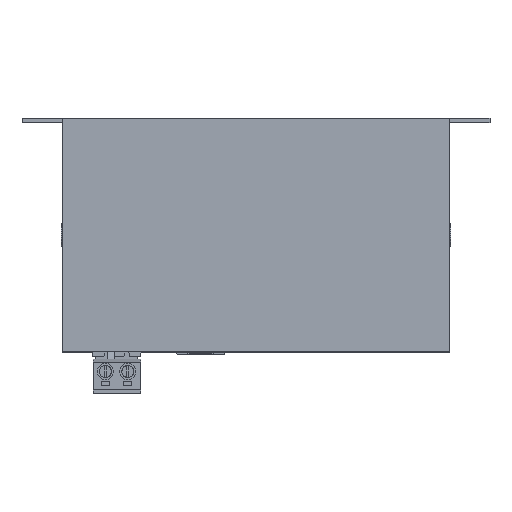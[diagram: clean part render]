
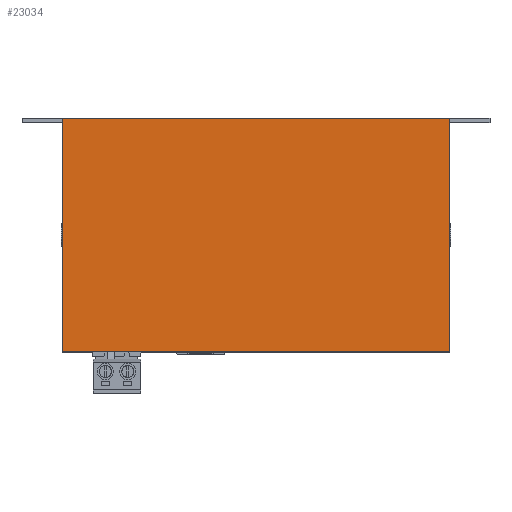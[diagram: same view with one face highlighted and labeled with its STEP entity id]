
A CAD part, top view. The second image highlights one B-rep face of the part: STEP entity #23034.
In plain terms, the highlighted planar face has unit normal (0, 0, 1).
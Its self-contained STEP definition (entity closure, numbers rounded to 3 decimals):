
#10743 = PLANE('',#10744);
#10744 = AXIS2_PLACEMENT_3D('',#10745,#10746,#10747);
#10745 = CARTESIAN_POINT('',(-10.8,0.,0.));
#10746 = DIRECTION('',(0.,1.,0.));
#10747 = DIRECTION('',(0.,0.,1.));
#13955 = VERTEX_POINT('',#13956);
#13956 = CARTESIAN_POINT('',(-1.,0.,26.));
#13970 = PLANE('',#13971);
#13971 = AXIS2_PLACEMENT_3D('',#13972,#13973,#13974);
#13972 = CARTESIAN_POINT('',(-1.,0.,0.));
#13973 = DIRECTION('',(1.,0.,0.));
#13974 = DIRECTION('',(0.,0.,1.));
#13982 = EDGE_CURVE('',#13955,#13983,#13985,.T.);
#13983 = VERTEX_POINT('',#13984);
#13984 = CARTESIAN_POINT('',(94.,0.,26.));
#13985 = SURFACE_CURVE('',#13986,(#13990,#13997),.PCURVE_S1.);
#13986 = LINE('',#13987,#13988);
#13987 = CARTESIAN_POINT('',(-10.8,0.,26.));
#13988 = VECTOR('',#13989,1.);
#13989 = DIRECTION('',(1.,0.,0.));
#13990 = PCURVE('',#10743,#13991);
#13991 = DEFINITIONAL_REPRESENTATION('',(#13992),#13996);
#13992 = LINE('',#13993,#13994);
#13993 = CARTESIAN_POINT('',(26.,0.));
#13994 = VECTOR('',#13995,1.);
#13995 = DIRECTION('',(0.,1.));
#13996 = ( GEOMETRIC_REPRESENTATION_CONTEXT(2) 
PARAMETRIC_REPRESENTATION_CONTEXT() REPRESENTATION_CONTEXT('2D SPACE',''
  ) );
#13997 = PCURVE('',#13998,#14003);
#13998 = PLANE('',#13999);
#13999 = AXIS2_PLACEMENT_3D('',#14000,#14001,#14002);
#14000 = CARTESIAN_POINT('',(-10.8,0.,26.));
#14001 = DIRECTION('',(0.,0.,1.));
#14002 = DIRECTION('',(1.,0.,0.));
#14003 = DEFINITIONAL_REPRESENTATION('',(#14004),#14008);
#14004 = LINE('',#14005,#14006);
#14005 = CARTESIAN_POINT('',(0.,0.));
#14006 = VECTOR('',#14007,1.);
#14007 = DIRECTION('',(1.,0.));
#14008 = ( GEOMETRIC_REPRESENTATION_CONTEXT(2) 
PARAMETRIC_REPRESENTATION_CONTEXT() REPRESENTATION_CONTEXT('2D SPACE',''
  ) );
#14026 = PLANE('',#14027);
#14027 = AXIS2_PLACEMENT_3D('',#14028,#14029,#14030);
#14028 = CARTESIAN_POINT('',(94.,56.2,26.));
#14029 = DIRECTION('',(1.,0.,0.));
#14030 = DIRECTION('',(0.,0.,1.));
#22753 = PLANE('',#22754);
#22754 = AXIS2_PLACEMENT_3D('',#22755,#22756,#22757);
#22755 = CARTESIAN_POINT('',(-10.8,57.2,0.));
#22756 = DIRECTION('',(0.,1.,0.));
#22757 = DIRECTION('',(0.,0.,1.));
#22925 = VERTEX_POINT('',#22926);
#22926 = CARTESIAN_POINT('',(-1.,57.2,26.));
#22946 = EDGE_CURVE('',#13955,#22925,#22947,.T.);
#22947 = SURFACE_CURVE('',#22948,(#22952,#22959),.PCURVE_S1.);
#22948 = LINE('',#22949,#22950);
#22949 = CARTESIAN_POINT('',(-1.,55.,26.));
#22950 = VECTOR('',#22951,1.);
#22951 = DIRECTION('',(0.,1.,0.));
#22952 = PCURVE('',#13970,#22953);
#22953 = DEFINITIONAL_REPRESENTATION('',(#22954),#22958);
#22954 = LINE('',#22955,#22956);
#22955 = CARTESIAN_POINT('',(26.,-55.));
#22956 = VECTOR('',#22957,1.);
#22957 = DIRECTION('',(0.,-1.));
#22958 = ( GEOMETRIC_REPRESENTATION_CONTEXT(2) 
PARAMETRIC_REPRESENTATION_CONTEXT() REPRESENTATION_CONTEXT('2D SPACE',''
  ) );
#22959 = PCURVE('',#13998,#22960);
#22960 = DEFINITIONAL_REPRESENTATION('',(#22961),#22965);
#22961 = LINE('',#22962,#22963);
#22962 = CARTESIAN_POINT('',(9.8,55.));
#22963 = VECTOR('',#22964,1.);
#22964 = DIRECTION('',(0.,1.));
#22965 = ( GEOMETRIC_REPRESENTATION_CONTEXT(2) 
PARAMETRIC_REPRESENTATION_CONTEXT() REPRESENTATION_CONTEXT('2D SPACE',''
  ) );
#23034 = ADVANCED_FACE('',(#23035),#13998,.T.);
#23035 = FACE_BOUND('',#23036,.T.);
#23036 = EDGE_LOOP('',(#23037,#23038,#23039,#23062));
#23037 = ORIENTED_EDGE('',*,*,#22946,.F.);
#23038 = ORIENTED_EDGE('',*,*,#13982,.T.);
#23039 = ORIENTED_EDGE('',*,*,#23040,.T.);
#23040 = EDGE_CURVE('',#13983,#23041,#23043,.T.);
#23041 = VERTEX_POINT('',#23042);
#23042 = CARTESIAN_POINT('',(94.,57.2,26.));
#23043 = SURFACE_CURVE('',#23044,(#23048,#23055),.PCURVE_S1.);
#23044 = LINE('',#23045,#23046);
#23045 = CARTESIAN_POINT('',(94.,0.,26.));
#23046 = VECTOR('',#23047,1.);
#23047 = DIRECTION('',(0.,1.,0.));
#23048 = PCURVE('',#13998,#23049);
#23049 = DEFINITIONAL_REPRESENTATION('',(#23050),#23054);
#23050 = LINE('',#23051,#23052);
#23051 = CARTESIAN_POINT('',(104.8,0.));
#23052 = VECTOR('',#23053,1.);
#23053 = DIRECTION('',(0.,1.));
#23054 = ( GEOMETRIC_REPRESENTATION_CONTEXT(2) 
PARAMETRIC_REPRESENTATION_CONTEXT() REPRESENTATION_CONTEXT('2D SPACE',''
  ) );
#23055 = PCURVE('',#14026,#23056);
#23056 = DEFINITIONAL_REPRESENTATION('',(#23057),#23061);
#23057 = LINE('',#23058,#23059);
#23058 = CARTESIAN_POINT('',(0.,56.2));
#23059 = VECTOR('',#23060,1.);
#23060 = DIRECTION('',(0.,-1.));
#23061 = ( GEOMETRIC_REPRESENTATION_CONTEXT(2) 
PARAMETRIC_REPRESENTATION_CONTEXT() REPRESENTATION_CONTEXT('2D SPACE',''
  ) );
#23062 = ORIENTED_EDGE('',*,*,#23063,.F.);
#23063 = EDGE_CURVE('',#22925,#23041,#23064,.T.);
#23064 = SURFACE_CURVE('',#23065,(#23069,#23076),.PCURVE_S1.);
#23065 = LINE('',#23066,#23067);
#23066 = CARTESIAN_POINT('',(-10.8,57.2,26.));
#23067 = VECTOR('',#23068,1.);
#23068 = DIRECTION('',(1.,0.,0.));
#23069 = PCURVE('',#13998,#23070);
#23070 = DEFINITIONAL_REPRESENTATION('',(#23071),#23075);
#23071 = LINE('',#23072,#23073);
#23072 = CARTESIAN_POINT('',(0.,57.2));
#23073 = VECTOR('',#23074,1.);
#23074 = DIRECTION('',(1.,0.));
#23075 = ( GEOMETRIC_REPRESENTATION_CONTEXT(2) 
PARAMETRIC_REPRESENTATION_CONTEXT() REPRESENTATION_CONTEXT('2D SPACE',''
  ) );
#23076 = PCURVE('',#22753,#23077);
#23077 = DEFINITIONAL_REPRESENTATION('',(#23078),#23082);
#23078 = LINE('',#23079,#23080);
#23079 = CARTESIAN_POINT('',(26.,0.));
#23080 = VECTOR('',#23081,1.);
#23081 = DIRECTION('',(0.,1.));
#23082 = ( GEOMETRIC_REPRESENTATION_CONTEXT(2) 
PARAMETRIC_REPRESENTATION_CONTEXT() REPRESENTATION_CONTEXT('2D SPACE',''
  ) );
